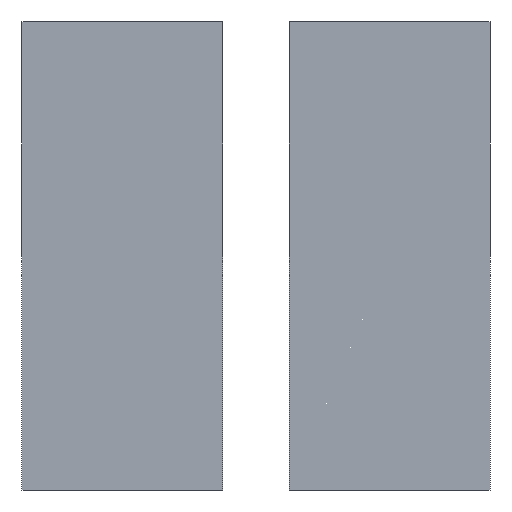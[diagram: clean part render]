
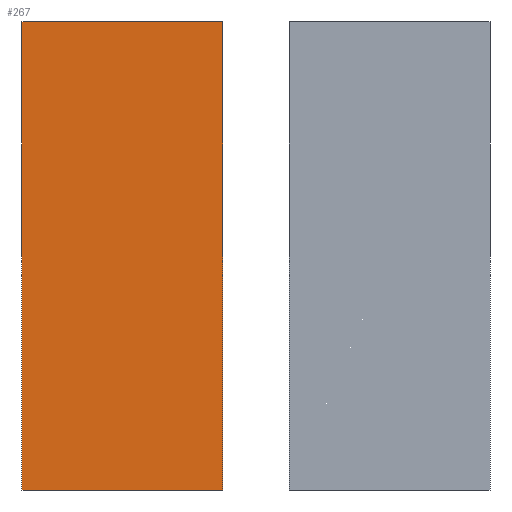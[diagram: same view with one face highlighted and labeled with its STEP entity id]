
A CAD part, front view. The second image highlights one B-rep face of the part: STEP entity #267.
In plain terms, the highlighted planar face has unit normal (0, -1, 0).
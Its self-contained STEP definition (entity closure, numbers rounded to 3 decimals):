
#51 = EDGE_CURVE('',#52,#54,#56,.T.);
#52 = VERTEX_POINT('',#53);
#53 = CARTESIAN_POINT('',(-15.,-0.4,-35.));
#54 = VERTEX_POINT('',#55);
#55 = CARTESIAN_POINT('',(-15.,-0.4,35.));
#56 = SURFACE_CURVE('',#57,(#61,#73),.PCURVE_S1.);
#57 = LINE('',#58,#59);
#58 = CARTESIAN_POINT('',(-15.,-0.4,-35.));
#59 = VECTOR('',#60,1.);
#60 = DIRECTION('',(0.,0.,1.));
#61 = PCURVE('',#62,#67);
#62 = PLANE('',#63);
#63 = AXIS2_PLACEMENT_3D('',#64,#65,#66);
#64 = CARTESIAN_POINT('',(-15.,-0.4,-35.));
#65 = DIRECTION('',(1.,0.,-0.));
#66 = DIRECTION('',(0.,0.,1.));
#67 = DEFINITIONAL_REPRESENTATION('',(#68),#72);
#68 = LINE('',#69,#70);
#69 = CARTESIAN_POINT('',(0.,0.));
#70 = VECTOR('',#71,1.);
#71 = DIRECTION('',(1.,0.));
#72 = ( GEOMETRIC_REPRESENTATION_CONTEXT(2) 
PARAMETRIC_REPRESENTATION_CONTEXT() REPRESENTATION_CONTEXT('2D SPACE',''
  ) );
#73 = PCURVE('',#74,#79);
#74 = PLANE('',#75);
#75 = AXIS2_PLACEMENT_3D('',#76,#77,#78);
#76 = CARTESIAN_POINT('',(-15.,-0.4,-35.));
#77 = DIRECTION('',(-0.,1.,0.));
#78 = DIRECTION('',(0.,0.,1.));
#79 = DEFINITIONAL_REPRESENTATION('',(#80),#84);
#80 = LINE('',#81,#82);
#81 = CARTESIAN_POINT('',(0.,0.));
#82 = VECTOR('',#83,1.);
#83 = DIRECTION('',(1.,0.));
#84 = ( GEOMETRIC_REPRESENTATION_CONTEXT(2) 
PARAMETRIC_REPRESENTATION_CONTEXT() REPRESENTATION_CONTEXT('2D SPACE',''
  ) );
#102 = PLANE('',#103);
#103 = AXIS2_PLACEMENT_3D('',#104,#105,#106);
#104 = CARTESIAN_POINT('',(-15.,-0.4,-35.));
#105 = DIRECTION('',(0.,0.,1.));
#106 = DIRECTION('',(1.,0.,-0.));
#156 = PLANE('',#157);
#157 = AXIS2_PLACEMENT_3D('',#158,#159,#160);
#158 = CARTESIAN_POINT('',(-15.,-0.4,35.));
#159 = DIRECTION('',(0.,0.,1.));
#160 = DIRECTION('',(1.,0.,-0.));
#171 = EDGE_CURVE('',#172,#174,#176,.T.);
#172 = VERTEX_POINT('',#173);
#173 = CARTESIAN_POINT('',(15.,-0.4,-35.));
#174 = VERTEX_POINT('',#175);
#175 = CARTESIAN_POINT('',(15.,-0.4,35.));
#176 = SURFACE_CURVE('',#177,(#181,#193),.PCURVE_S1.);
#177 = LINE('',#178,#179);
#178 = CARTESIAN_POINT('',(15.,-0.4,-35.));
#179 = VECTOR('',#180,1.);
#180 = DIRECTION('',(0.,0.,1.));
#181 = PCURVE('',#182,#187);
#182 = PLANE('',#183);
#183 = AXIS2_PLACEMENT_3D('',#184,#185,#186);
#184 = CARTESIAN_POINT('',(15.,-0.4,-35.));
#185 = DIRECTION('',(1.,0.,-0.));
#186 = DIRECTION('',(0.,0.,1.));
#187 = DEFINITIONAL_REPRESENTATION('',(#188),#192);
#188 = LINE('',#189,#190);
#189 = CARTESIAN_POINT('',(0.,0.));
#190 = VECTOR('',#191,1.);
#191 = DIRECTION('',(1.,0.));
#192 = ( GEOMETRIC_REPRESENTATION_CONTEXT(2) 
PARAMETRIC_REPRESENTATION_CONTEXT() REPRESENTATION_CONTEXT('2D SPACE',''
  ) );
#193 = PCURVE('',#74,#194);
#194 = DEFINITIONAL_REPRESENTATION('',(#195),#199);
#195 = LINE('',#196,#197);
#196 = CARTESIAN_POINT('',(0.,30.));
#197 = VECTOR('',#198,1.);
#198 = DIRECTION('',(1.,0.));
#199 = ( GEOMETRIC_REPRESENTATION_CONTEXT(2) 
PARAMETRIC_REPRESENTATION_CONTEXT() REPRESENTATION_CONTEXT('2D SPACE',''
  ) );
#267 = ADVANCED_FACE('',(#268),#74,.F.);
#268 = FACE_BOUND('',#269,.F.);
#269 = EDGE_LOOP('',(#270,#291,#292,#313));
#270 = ORIENTED_EDGE('',*,*,#271,.F.);
#271 = EDGE_CURVE('',#52,#172,#272,.T.);
#272 = SURFACE_CURVE('',#273,(#277,#284),.PCURVE_S1.);
#273 = LINE('',#274,#275);
#274 = CARTESIAN_POINT('',(-15.,-0.4,-35.));
#275 = VECTOR('',#276,1.);
#276 = DIRECTION('',(1.,0.,-0.));
#277 = PCURVE('',#74,#278);
#278 = DEFINITIONAL_REPRESENTATION('',(#279),#283);
#279 = LINE('',#280,#281);
#280 = CARTESIAN_POINT('',(0.,0.));
#281 = VECTOR('',#282,1.);
#282 = DIRECTION('',(0.,1.));
#283 = ( GEOMETRIC_REPRESENTATION_CONTEXT(2) 
PARAMETRIC_REPRESENTATION_CONTEXT() REPRESENTATION_CONTEXT('2D SPACE',''
  ) );
#284 = PCURVE('',#102,#285);
#285 = DEFINITIONAL_REPRESENTATION('',(#286),#290);
#286 = LINE('',#287,#288);
#287 = CARTESIAN_POINT('',(0.,0.));
#288 = VECTOR('',#289,1.);
#289 = DIRECTION('',(1.,0.));
#290 = ( GEOMETRIC_REPRESENTATION_CONTEXT(2) 
PARAMETRIC_REPRESENTATION_CONTEXT() REPRESENTATION_CONTEXT('2D SPACE',''
  ) );
#291 = ORIENTED_EDGE('',*,*,#51,.T.);
#292 = ORIENTED_EDGE('',*,*,#293,.T.);
#293 = EDGE_CURVE('',#54,#174,#294,.T.);
#294 = SURFACE_CURVE('',#295,(#299,#306),.PCURVE_S1.);
#295 = LINE('',#296,#297);
#296 = CARTESIAN_POINT('',(-15.,-0.4,35.));
#297 = VECTOR('',#298,1.);
#298 = DIRECTION('',(1.,0.,-0.));
#299 = PCURVE('',#74,#300);
#300 = DEFINITIONAL_REPRESENTATION('',(#301),#305);
#301 = LINE('',#302,#303);
#302 = CARTESIAN_POINT('',(70.,0.));
#303 = VECTOR('',#304,1.);
#304 = DIRECTION('',(0.,1.));
#305 = ( GEOMETRIC_REPRESENTATION_CONTEXT(2) 
PARAMETRIC_REPRESENTATION_CONTEXT() REPRESENTATION_CONTEXT('2D SPACE',''
  ) );
#306 = PCURVE('',#156,#307);
#307 = DEFINITIONAL_REPRESENTATION('',(#308),#312);
#308 = LINE('',#309,#310);
#309 = CARTESIAN_POINT('',(0.,0.));
#310 = VECTOR('',#311,1.);
#311 = DIRECTION('',(1.,0.));
#312 = ( GEOMETRIC_REPRESENTATION_CONTEXT(2) 
PARAMETRIC_REPRESENTATION_CONTEXT() REPRESENTATION_CONTEXT('2D SPACE',''
  ) );
#313 = ORIENTED_EDGE('',*,*,#171,.F.);
